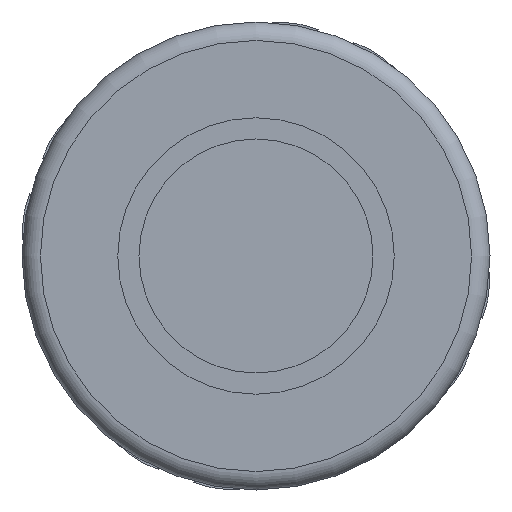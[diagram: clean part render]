
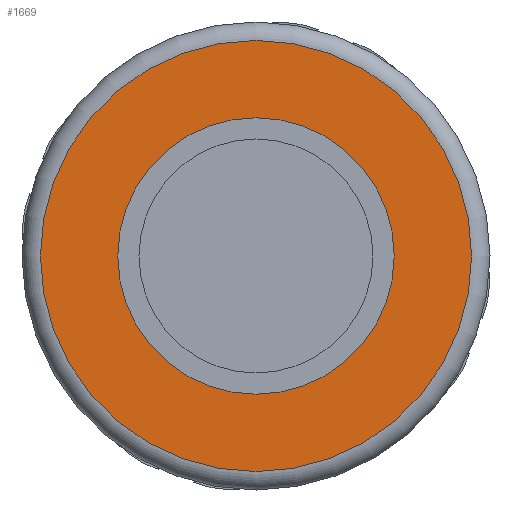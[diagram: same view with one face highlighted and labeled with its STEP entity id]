
A CAD part, front view. The second image highlights one B-rep face of the part: STEP entity #1669.
In plain terms, the highlighted planar face has unit normal (0, -1, 0).
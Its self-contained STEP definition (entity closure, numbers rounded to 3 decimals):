
#1627=CARTESIAN_POINT('',(-5.85,-9.525,0.0));
#1628=VERTEX_POINT('',#1627);
#1629=CARTESIAN_POINT('',(0.0,-9.525,0.0));
#1630=DIRECTION('',(0.0,1.0,0.0));
#1631=DIRECTION('',(1.0,0.0,0.0));
#1632=AXIS2_PLACEMENT_3D('',#1629,#1630,#1631);
#1633=CIRCLE('',#1632,5.85);
#1634=EDGE_CURVE('',#1628,#1628,#1633,.T.);
#1650=CARTESIAN_POINT('',(-5.05,-9.525,0.0));
#1651=DIRECTION('',(0.0,-1.0,0.0));
#1652=DIRECTION('',(0.0,0.0,-1.0));
#1653=AXIS2_PLACEMENT_3D('',#1650,#1651,#1652);
#1654=PLANE('',#1653);
#1655=ORIENTED_EDGE('',*,*,#1634,.F.);
#1656=EDGE_LOOP('',(#1655));
#1657=FACE_OUTER_BOUND('',#1656,.T.);
#1658=CARTESIAN_POINT('',(-3.75,-9.525,0.0));
#1659=VERTEX_POINT('',#1658);
#1660=CARTESIAN_POINT('',(0.0,-9.525,0.0));
#1661=DIRECTION('',(0.0,1.0,0.0));
#1662=DIRECTION('',(-1.0,0.0,0.0));
#1663=AXIS2_PLACEMENT_3D('',#1660,#1661,#1662);
#1664=CIRCLE('',#1663,3.75);
#1665=EDGE_CURVE('',#1659,#1659,#1664,.T.);
#1666=ORIENTED_EDGE('',*,*,#1665,.T.);
#1667=EDGE_LOOP('',(#1666));
#1668=FACE_BOUND('',#1667,.T.);
#1669=ADVANCED_FACE('',(#1657,#1668),#1654,.T.);
